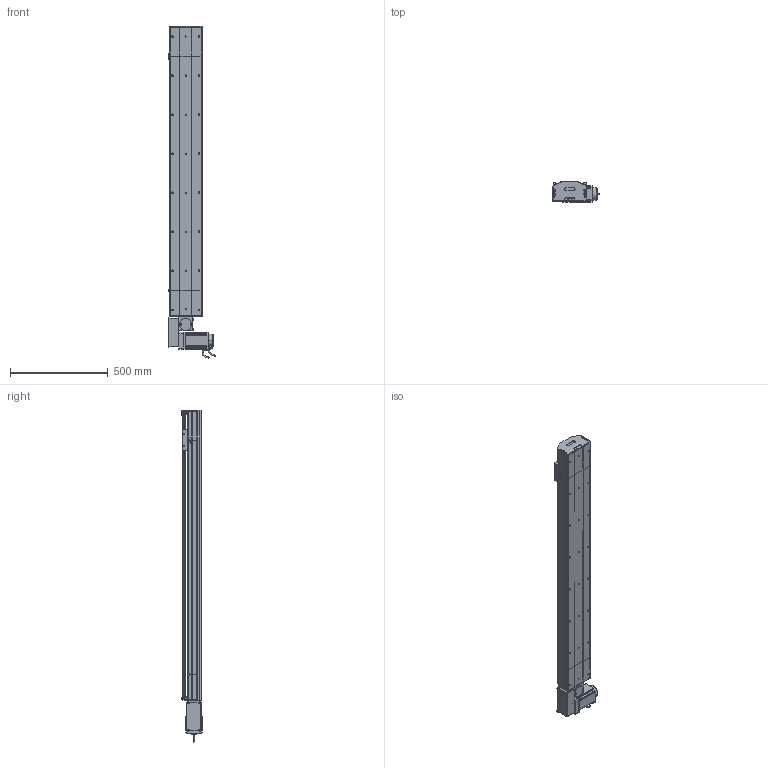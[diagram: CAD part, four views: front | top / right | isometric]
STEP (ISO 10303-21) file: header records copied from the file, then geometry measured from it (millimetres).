
FILE_DESCRIPTION (( 'STEP AP214' ), '1' );
FILE_NAME ('D17 TBN RH S1200.STEP', '2010-06-30T10:47:16', ( 'Christophe Gaillard' ), ( 'SGA' ), 'SwSTEP 2.0', 'SolidWorks 2010', '' );
FILE_SCHEMA (( 'AUTOMOTIVE_DESIGN' ));
Length unit declared in the file: millimetre
Products named in the file (40): corp D17B 1200_Default; Head RH D17B_Default; couvercle D17B course L1200_Default; codeur 90BLDC125-640; Arbre+rail head D17B; plaque de  bout head D17B RH_Default; couvercle D17B head_Default; corps 90BLDC125A-640; couroie head D17_Default; Conecteur_Default; vis M5 L5_Default; corpl head D17 _Default; poulie head_Default; avant 90BLDC125A-640; Moteur motionking 90BLDC125A-640; vis M5 L16_Default; cache D17_Default; Conecteur2_Default; vis M5 L70_Default; Plaque racord D17_Default; Vis M5 L16-2_Default; cache arbre D17_Default; Renvoi RH_Default; Tail D17B_Default; guide D17; corpl tail D17B_Default; Couroie tail D17B_Default; vis M5 L12_Default; tete d''axe poulie D17B; poulie tail_Default; Chariot D17 TBN; Rail D17B; chariot D17 TBN; vis M5 L8 90°_Default; vis M5 L25_Default; plaque de  bout tail D17B_Default; couvercle D17B_Default; course 1200 D17B_Default; Couroie+ rail D17 Course 200 ; D17 TBN RH S1200
Assembly tree (66 placements, depth 4):
  D17 TBN RH S1200
    Head RH D17B_Default
      Vis M5 L16-2_Default  x4
      vis M5 L25_Default  x2
      vis M5 L12_Default  x8
      vis M5 L70_Default  x4
      poulie head_Default
      corpl head D17 _Default
      cache D17_Default  x2
      vis M5 L16_Default  x2
      vis M5 L5_Default  x4
      couvercle D17B head_Default
      Moteur motionking 90BLDC125A-640
        Conecteur_Default
        avant 90BLDC125A-640
        Conecteur2_Default
        corps 90BLDC125A-640
        codeur 90BLDC125-640
      couroie head D17_Default
      Plaque racord D17_Default
      cache arbre D17_Default
      plaque de  bout head D17B RH_Default
      Arbre+rail head D17B
      Renvoi RH_Default
    Tail D17B_Default
      vis M5 L25_Default  x2
      vis M5 L12_Default  x4
      couvercle D17B_Default
      Couroie tail D17B_Default
      poulie tail_Default
      plaque de  bout tail D17B_Default
      tete d''axe poulie D17B
      Rail D17B
      corpl tail D17B_Default
      vis M5 L8 90°_Default  x2
    chariot D17 TBN
      Chariot D17 TBN
      guide D17  x2
    course 1200 D17B_Default
      Couroie+ rail D17 Course 200 
      couvercle D17B course L1200_Default
      corp D17B 1200_Default
Bounding box: 245.2 x 105.65 x 1700.95 mm (x, y, z)
Volume: 10006603.2 mm3; surface area: 2823858.5 mm2
Topology: 89 solids, 89 shells, 2543 faces, 6429 edges, 4146 vertices
Faces by surface type: plane 1533, cylinder 713, bspline 136, cone 80, torus 77, sphere 4
Entity records: 81875 total; most frequent: CARTESIAN_POINT 24555, ORIENTED_EDGE 10030, DIRECTION 9492, EDGE_CURVE 5015, VECTOR 3378, LINE 3378, VERTEX_POINT 3290, AXIS2_PLACEMENT_3D 3057
